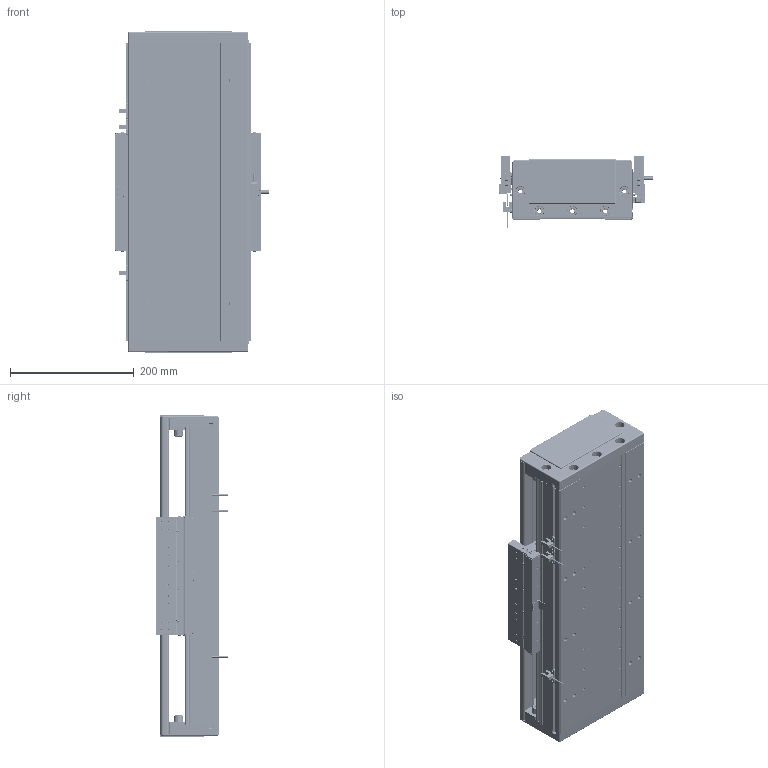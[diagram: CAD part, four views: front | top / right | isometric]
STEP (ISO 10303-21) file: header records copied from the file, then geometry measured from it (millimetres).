
FILE_DESCRIPTION (( 'STEP AP203' ), '1' );
FILE_NAME ('DA-C195-C2-T240-C010-0.2 眻盄萇儂.STEP', '2025-08-15T00:58:14', ( '' ), ( '' ), 'SwSTEP 2.0', 'SolidWorks 2019', '' );
FILE_SCHEMA (( 'CONFIG_CONTROL_DESIGN' ));
Length unit declared in the file: millimetre
Products named in the file (12): MS200 棠掑喜S315-T240; IU-CU195-L 菁釱絳寢; LMT黍杅芛; 葩璃 DA95-GT-T-00; DA95-HXJ-00 遣喳砎蝶; IU-CU195-L-00 菁釱(L480); DA195-DG-H-00  端盖（压铸镂空版）; DA-C195-C2-T240-C010-0.2 眻盄萇儂; PM-T45ㄗ侂狟ㄘ; 66156-0001-005-00 光电感应片(默认); 66156-0001-003-00 裔啣; CU195-C2賑輸-俋楷
Assembly tree (20 placements, depth 3):
  DA-C195-C2-T240-C010-0.2 眻盄萇儂
    IU-CU195-L 菁釱絳寢
      IU-CU195-L-00 菁釱(L480)
      葩璃 DA95-GT-T-00  x4
    LMT黍杅芛
    MS200 棠掑喜S315-T240
    PM-T45ㄗ侂狟ㄘ  x3
    66156-0001-005-00 光电感应片(默认)
    DA195-DG-H-00  端盖（压铸镂空版）  x2
    DA95-HXJ-00 遣喳砎蝶  x4
    66156-0001-003-00 裔啣
    CU195-C2賑輸-俋楷
Bounding box: 248 x 115.6 x 520 mm (x, y, z)
Volume: 4468978.4 mm3; surface area: 1252142.3 mm2
Topology: 58 solids, 130 shells, 4963 faces, 12308 edges, 7417 vertices
Faces by surface type: cylinder 1989, plane 1624, bspline 710, cone 560, torus 44, sphere 36
Entity records: 130193 total; most frequent: CARTESIAN_POINT 39235, ORIENTED_EDGE 18670, DIRECTION 18464, EDGE_CURVE 9335, AXIS2_PLACEMENT_3D 6851, VERTEX_POINT 5847, VECTOR 4762, LINE 4762
